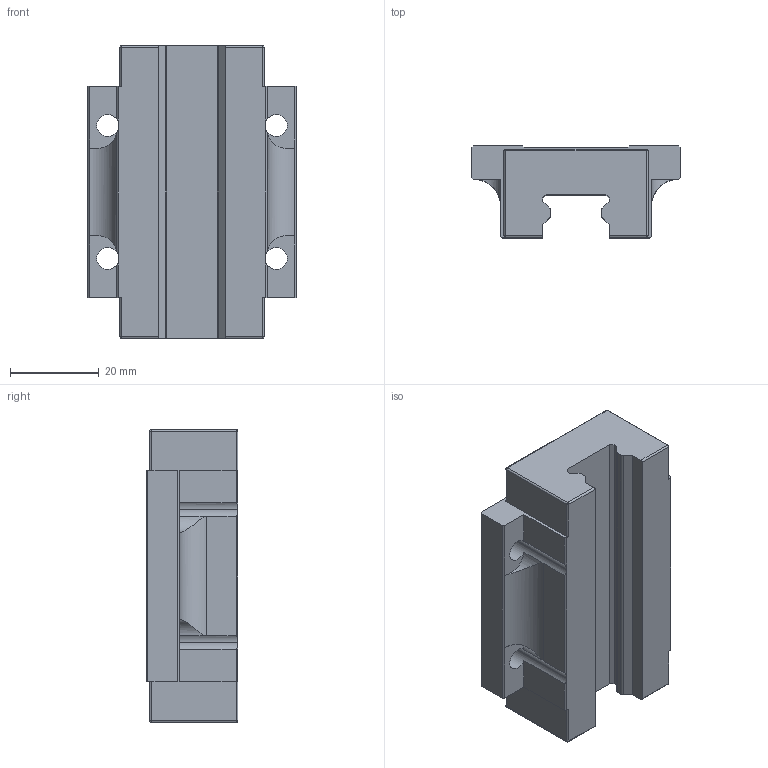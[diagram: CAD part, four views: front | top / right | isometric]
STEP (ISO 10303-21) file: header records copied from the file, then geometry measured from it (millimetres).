
FILE_DESCRIPTION (( 'STEP AP203' ), '1' );
FILE_NAME ('L1016.F15-L-BC.step', '2019-06-13T14:21:22', ( '' ), ( '' ), 'SwSTEP 2.0', 'SolidWorks 2017', '' );
FILE_SCHEMA (( 'CONFIG_CONTROL_DESIGN' ));
Length unit declared in the file: millimetre
Products named in the file (1): L1016.F15-L-BC
Bounding box: 47 x 20.7 x 66.1 mm (x, y, z)
Volume: 40649.7 mm3; surface area: 11253.1 mm2
Topology: 1 solids, 1 shells, 100 faces, 286 edges, 176 vertices
Faces by surface type: plane 56, cylinder 36, sphere 8
Entity records: 3331 total; most frequent: CARTESIAN_POINT 659, ORIENTED_EDGE 556, DIRECTION 540, EDGE_CURVE 278, VECTOR 186, LINE 186, AXIS2_PLACEMENT_3D 177, VERTEX_POINT 176
